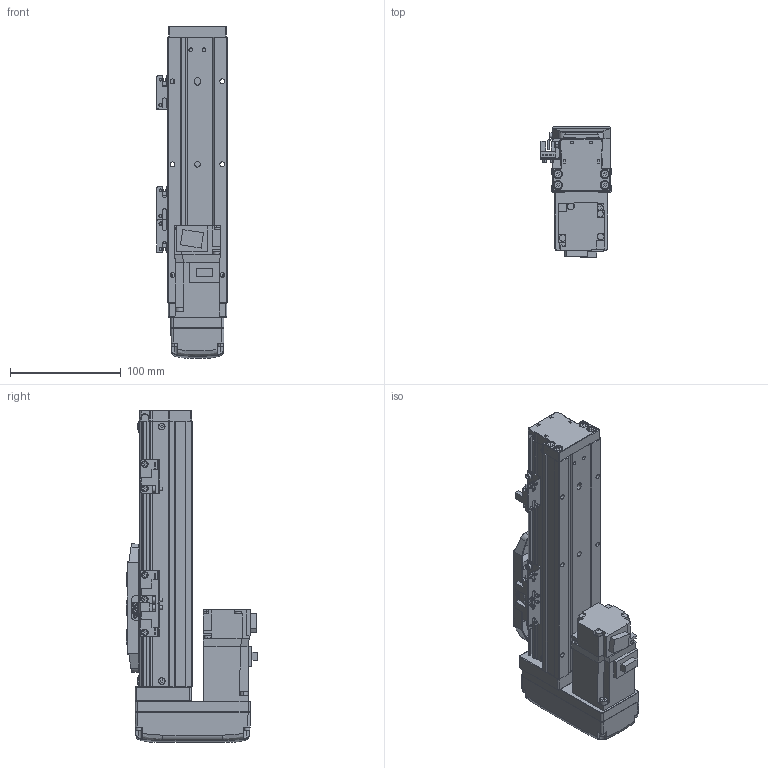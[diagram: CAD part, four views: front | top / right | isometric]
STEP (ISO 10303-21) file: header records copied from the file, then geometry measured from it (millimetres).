
FILE_DESCRIPTION (( 'STEP AP203' ), '1' );
FILE_NAME ('GTH5-100-BM-M10-C4.step', '2022-09-23T00:46:33', ( '微软用户' ), ( '微软中国' ), 'SwSTEP 2.0', 'SolidWorks 2020', '' );
FILE_SCHEMA (( 'CONFIG_CONTROL_DESIGN' ));
Length unit declared in the file: millimetre
Products named in the file (19): GTH50-004; GTH50-023; HG-KR13; GBT 70.3-M3℅6; GBT 70.1-M3℅6; GTH50-027-1_BTHA50-027-2; BTH-M3X5X6; GBT96.1-2002 3×0.8; GTH50-026; GTH50-001_100; GTH50-024; GTH5-100-BM-M10-C4; GBT 70.1-M4×16; GBT 70.1-M2.5×6; GTH50-003; GTH50-028; GTH50-006; GTH50-013; GTH50-022-1
Assembly tree (57 placements, depth 2):
  GTH5-100-BM-M10-C4
    GTH50-006
    GTH50-004
    GBT 70.3-M3℅6  x4
    BTH-M3X5X6  x8
    GTH50-001_100
    GBT 70.1-M4×16  x8
    GTH50-003
    GTH50-013
    GTH50-023  x3
    GBT 70.1-M3℅6  x12
    GBT96.1-2002 3×0.8  x6
    GTH50-024  x3
    GBT 70.1-M2.5×6  x2
    GTH50-028  x2
    GTH50-022-1
    HG-KR13
    GTH50-027-1_BTHA50-027-2
    GTH50-026
Bounding box: 63.8 x 118.9 x 300 mm (x, y, z)
Volume: 794757.7 mm3; surface area: 183115.6 mm2
Topology: 59 solids, 59 shells, 2140 faces, 4956 edges, 3036 vertices
Faces by surface type: plane 1142, cylinder 569, cone 219, torus 162, bspline 40, sphere 8
Entity records: 39420 total; most frequent: CARTESIAN_POINT 7827, DIRECTION 6045, ORIENTED_EDGE 5826, EDGE_CURVE 2913, AXIS2_PLACEMENT_3D 2092, VECTOR 1861, LINE 1861, VERTEX_POINT 1838
